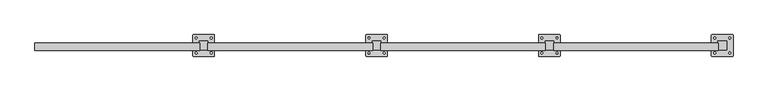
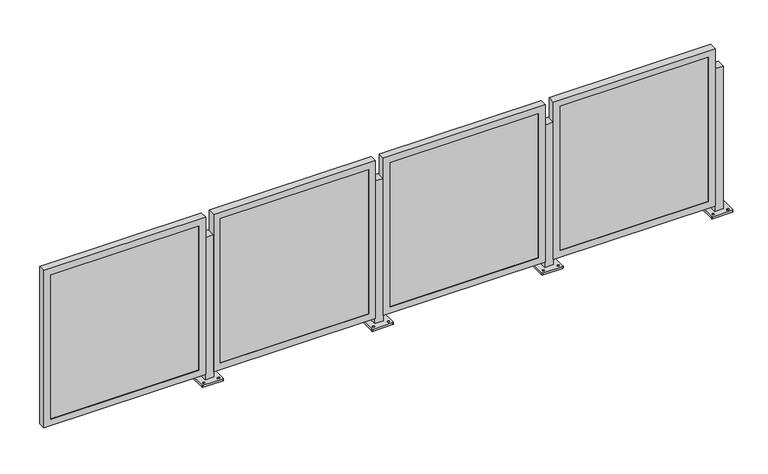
"""IFC4 building model written with IfcOpenShell, lengths in millimetres: railing geometry, Railing - Amico Architectural - Perforated Railing - Pisa."""

from ifc_helpers import new_model, si_unit, frame, origin, place, context, project, spatial, polyline, circle_curve, outline, extrude, faceted_brep, source, transform, mapped, element, save
from ifc_brep_helpers import plane_surface, cylinder_surface, revolved_surface, advanced_brep


def railing_c7cb529c(model_context):
    return source(origin(), model_context, "Body", "SolidModel", [
        advanced_brep(
        [(-18876.7094199, -12390.7148907, 914.4), (-18876.7094199, -12441.5148907, 914.4), (-18825.9094199, -12441.5148907, 914.4), (-18825.9094199, -12390.7148907, 914.4), (-18914.8094201, -12476.4398496, 0.0), (-18914.8094201, -12355.7899317, 0.0), (-18911.6343919, -12352.6149035, 0.0), (-18790.9844479, -12352.6149035, 0.0), (-18787.8094198, -12355.7899317, 0.0), (-18787.8094198, -12476.4398496, 0.0), (-18790.9844479, -12479.6148778, 0.0), (-18911.6343919, -12479.6148778, 0.0), (-18895.7594075, -12466.1211453, 0.0), (-18895.7594075, -12455.0086329, 0.0), (-18895.7594184, -12377.2211409, 0.0), (-18895.7594184, -12366.1086593, 0.0), (-18806.8594065, -12466.1211438, 0.0), (-18806.8594065, -12455.0086331, 0.0), (-18806.8594174, -12377.2211394, 0.0), (-18806.8594174, -12366.1086596, 0.0), (-18876.7094199, -12390.7148907, 12.7), (-18876.7094199, -12441.5148907, 12.7), (-18825.9094199, -12441.5148907, 12.7), (-18825.9094199, -12390.7148907, 12.7), (-18914.8094201, -12476.4398496, 12.7), (-18911.6343919, -12479.6148778, 12.7), (-18790.9844479, -12479.6148778, 12.7), (-18787.8094198, -12476.4398496, 12.7), (-18787.8094198, -12355.7899317, 12.7), (-18790.9844479, -12352.6149035, 12.7), (-18911.6343919, -12352.6149035, 12.7), (-18914.8094201, -12355.7899317, 12.7), (-18895.7594075, -12466.1211453, 12.7), (-18895.7594075, -12455.0086329, 12.7), (-18895.7594184, -12377.2211409, 12.7), (-18895.7594184, -12366.1086593, 12.7), (-18806.8594065, -12466.1211438, 12.7), (-18806.8594065, -12455.0086331, 12.7), (-18806.8594174, -12377.2211394, 12.7), (-18806.8594174, -12366.1086596, 12.7)],
        [
            (0, 1),
            (1, 2),
            (2, 3),
            (3, 0),
            (4, 5),
            (5, 6, circle_curve(frame((-18911.6343919, -12355.7899317, 0.0), z_axis=(0.0, 0.0, -1.0), x_axis=(0.0, 1.0, 0.0)), 3.1750282)),
            (6, 7),
            (7, 8, circle_curve(frame((-18790.9844479, -12355.7899317, 0.0), z_axis=(0.0, 0.0, -1.0), x_axis=(0.0, 1.0, 0.0)), 3.1750282)),
            (8, 9),
            (9, 10, circle_curve(frame((-18790.9844479, -12476.4398496, 0.0), z_axis=(0.0, 0.0, -1.0), x_axis=(0.0, 1.0, 0.0)), 3.1750282)),
            (10, 11),
            (11, 4, circle_curve(frame((-18911.6343919, -12476.4398496, 0.0), z_axis=(0.0, 0.0, -1.0), x_axis=(0.0, 1.0, 0.0)), 3.1750282)),
            (12, 13, circle_curve(frame((-18895.7594075, -12460.5648891, 0.0), z_axis=(0.0, 0.0, 1.0), x_axis=(0.0, 1.0, 0.0)), 5.5562562)),
            (13, 12, circle_curve(frame((-18895.7594075, -12460.5648891, 0.0), z_axis=(0.0, 0.0, 1.0), x_axis=(0.0, 1.0, 0.0)), 5.5562562)),
            (14, 15, circle_curve(frame((-18895.7594184, -12371.6649001, 0.0), z_axis=(0.0, 0.0, 1.0), x_axis=(0.0, 1.0, 0.0)), 5.5562408)),
            (15, 14, circle_curve(frame((-18895.7594184, -12371.6649001, 0.0), z_axis=(0.0, 0.0, 1.0), x_axis=(0.0, 1.0, 0.0)), 5.5562408)),
            (16, 17, circle_curve(frame((-18806.8594065, -12460.5648885, 0.0), z_axis=(0.0, 0.0, 1.0), x_axis=(0.0, 1.0, 0.0)), 5.5562553)),
            (17, 16, circle_curve(frame((-18806.8594065, -12460.5648885, 0.0), z_axis=(0.0, 0.0, 1.0), x_axis=(0.0, 1.0, 0.0)), 5.5562553)),
            (18, 19, circle_curve(frame((-18806.8594174, -12371.6648995, 0.0), z_axis=(0.0, 0.0, 1.0), x_axis=(0.0, 1.0, 0.0)), 5.5562399)),
            (19, 18, circle_curve(frame((-18806.8594174, -12371.6648995, 0.0), z_axis=(0.0, 0.0, 1.0), x_axis=(0.0, 1.0, 0.0)), 5.5562399)),
            (0, 20),
            (20, 21),
            (21, 1),
            (21, 22),
            (22, 2),
            (22, 23),
            (23, 3),
            (23, 20),
            (24, 25, circle_curve(frame((-18911.6343919, -12476.4398496, 12.7), z_axis=(0.0, 0.0, 1.0), x_axis=(0.0, 1.0, 0.0)), 3.1750282)),
            (25, 26),
            (26, 27, circle_curve(frame((-18790.9844479, -12476.4398496, 12.7), z_axis=(0.0, 0.0, 1.0), x_axis=(0.0, 1.0, 0.0)), 3.1750282)),
            (27, 28),
            (28, 29, circle_curve(frame((-18790.9844479, -12355.7899317, 12.7), z_axis=(0.0, 0.0, 1.0), x_axis=(0.0, 1.0, 0.0)), 3.1750282)),
            (29, 30),
            (30, 31, circle_curve(frame((-18911.6343919, -12355.7899317, 12.7), z_axis=(0.0, 0.0, 1.0), x_axis=(0.0, 1.0, 0.0)), 3.1750282)),
            (31, 24),
            (32, 33, circle_curve(frame((-18895.7594075, -12460.5648891, 12.7), z_axis=(0.0, 0.0, -1.0), x_axis=(0.0, 1.0, 0.0)), 5.5562562)),
            (33, 32, circle_curve(frame((-18895.7594075, -12460.5648891, 12.7), z_axis=(0.0, 0.0, -1.0), x_axis=(0.0, 1.0, 0.0)), 5.5562562)),
            (34, 35, circle_curve(frame((-18895.7594184, -12371.6649001, 12.7), z_axis=(0.0, 0.0, -1.0), x_axis=(0.0, 1.0, 0.0)), 5.5562408)),
            (35, 34, circle_curve(frame((-18895.7594184, -12371.6649001, 12.7), z_axis=(0.0, 0.0, -1.0), x_axis=(0.0, 1.0, 0.0)), 5.5562408)),
            (36, 37, circle_curve(frame((-18806.8594065, -12460.5648885, 12.7), z_axis=(0.0, 0.0, -1.0), x_axis=(0.0, 1.0, 0.0)), 5.5562553)),
            (37, 36, circle_curve(frame((-18806.8594065, -12460.5648885, 12.7), z_axis=(0.0, 0.0, -1.0), x_axis=(0.0, 1.0, 0.0)), 5.5562553)),
            (38, 39, circle_curve(frame((-18806.8594174, -12371.6648995, 12.7), z_axis=(0.0, 0.0, -1.0), x_axis=(0.0, 1.0, 0.0)), 5.5562399)),
            (39, 38, circle_curve(frame((-18806.8594174, -12371.6648995, 12.7), z_axis=(0.0, 0.0, -1.0), x_axis=(0.0, 1.0, 0.0)), 5.5562399)),
            (24, 4),
            (11, 25),
            (10, 26),
            (9, 27),
            (8, 28),
            (7, 29),
            (6, 30),
            (5, 31),
            (32, 12),
            (13, 33),
            (34, 14),
            (15, 35),
            (36, 16),
            (17, 37),
            (38, 18),
            (19, 39),
        ],
        [
            plane_surface(frame((-18876.7094199, -12441.5148907, 914.4), z_axis=(0.0, 0.0, 1.0), x_axis=(0.0, -1.0, 0.0))),
            plane_surface(frame((-18876.7094199, -12441.5148907, 0.0), z_axis=(0.0, 0.0, -1.0), x_axis=(0.0, 1.0, 0.0))),
            plane_surface(frame((-18876.7094199, -12390.7148907, 914.4), z_axis=(-1.0, 0.0, 0.0), x_axis=(0.0, 0.0, -1.0))),
            plane_surface(frame((-18876.7094199, -12441.5148907, 914.4), z_axis=(0.0, -1.0, 0.0), x_axis=(0.0, 0.0, -1.0))),
            plane_surface(frame((-18825.9094199, -12441.5148907, 914.4), z_axis=(1.0, 0.0, 0.0), x_axis=(0.0, 0.0, -1.0))),
            plane_surface(frame((-18825.9094199, -12390.7148907, 914.4), z_axis=(0.0, 1.0, 0.0), x_axis=(0.0, 0.0, -1.0))),
            plane_surface(frame((-18911.6343919, -12473.2648215, 12.7), z_axis=(0.0, 0.0, 1.0), x_axis=(-1.0, 0.0, 0.0))),
            cylinder_surface(frame((-18911.6343919, -12476.4398496, 0.0), z_axis=(0.0, 0.0, 1.0), x_axis=(0.0, 1.0, 0.0)), 3.1750282),
            plane_surface(frame((-18911.6343919, -12479.6148778, 12.7), z_axis=(1.1945386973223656e-12, -1.0, 0.0), x_axis=(0.0, 0.0, -1.0))),
            cylinder_surface(frame((-18790.9844479, -12476.4398496, 0.0), z_axis=(0.0, 0.0, 1.0), x_axis=(0.0, 1.0, 0.0)), 3.1750282),
            plane_surface(frame((-18787.8094198, -12476.4398496, 12.7), z_axis=(1.0, 0.0, 0.0), x_axis=(0.0, 0.0, -1.0))),
            cylinder_surface(frame((-18790.9844479, -12355.7899317, 0.0), z_axis=(0.0, 0.0, 1.0), x_axis=(0.0, 1.0, 0.0)), 3.1750282),
            plane_surface(frame((-18790.9844479, -12352.6149035, 12.7), z_axis=(-1.1946088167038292e-12, 1.0, 0.0), x_axis=(0.0, 0.0, -1.0))),
            cylinder_surface(frame((-18911.6343919, -12355.7899317, 0.0), z_axis=(0.0, 0.0, 1.0), x_axis=(0.0, 1.0, 0.0)), 3.1750282),
            plane_surface(frame((-18914.8094201, -12355.7899317, 12.7), z_axis=(-1.0, 0.0, 0.0), x_axis=(0.0, 0.0, -1.0))),
            revolved_surface(polyline([(-18895.7594075, -12455.0086329, 0.0), (-18895.7594075, -12455.0086329, 12.7)]), (-18895.7594075, -12460.5648891, 0.0), (0.0, 0.0, -1.0)),
            revolved_surface(polyline([(-18895.7594184, -12366.1086593, 0.0), (-18895.7594184, -12366.1086593, 12.7)]), (-18895.7594184, -12371.6649001, 0.0), (0.0, 0.0, -1.0)),
            revolved_surface(polyline([(-18806.8594065, -12455.0086332, 0.0), (-18806.8594065, -12455.0086332, 12.7)]), (-18806.8594065, -12460.5648885, 0.0), (0.0, 0.0, -1.0)),
            revolved_surface(polyline([(-18806.8594174, -12366.1086596, 0.0), (-18806.8594174, -12366.1086596, 12.7)]), (-18806.8594174, -12371.6648995, 0.0), (0.0, 0.0, -1.0)),
        ],
        [
            (0, [[1, 2, 3, 4]]),
            (1, [[5, 6, 7, 8, 9, 10, 11, 12], [13, 14], [15, 16], [17, 18], [19, 20]]),
            (2, [[-1, 21, 22, 23]]),
            (3, [[-2, -23, 24, 25]]),
            (4, [[-3, -25, 26, 27]]),
            (5, [[-4, -27, 28, -21]]),
            (6, [[29, 30, 31, 32, 33, 34, 35, 36], [-22, -28, -26, -24], [37, 38], [39, 40], [41, 42], [43, 44]]),
            (7, [[-29, 45, -12, 46]]),
            (8, [[-30, -46, -11, 47]]),
            (9, [[-31, -47, -10, 48]]),
            (10, [[-32, -48, -9, 49]]),
            (11, [[-33, -49, -8, 50]]),
            (12, [[-34, -50, -7, 51]]),
            (13, [[-35, -51, -6, 52]]),
            (14, [[-36, -52, -5, -45]]),
            (15, [[-37, 53, -14, 54]]),
            (15, [[-38, -54, -13, -53]]),
            (16, [[-39, 55, -16, 56]]),
            (16, [[-40, -56, -15, -55]]),
            (17, [[-41, 57, -18, 58]]),
            (17, [[-42, -58, -17, -57]]),
            (18, [[-43, 59, -20, 60]]),
            (18, [[-44, -60, -19, -59]]),
        ],
    ),
        faceted_brep([(-19843.1138733, -12444.2580907, 47.625), (-18874.7388733, -12444.2580907, 47.625), (-18874.7388733, -12444.2580907, 1044.575), (-19843.1138733, -12444.2580907, 1044.575), (-19801.8388733, -12444.2580907, 1003.3), (-18916.0138733, -12444.2580907, 1003.3), (-18916.0138733, -12444.2580907, 88.9), (-19801.8388733, -12444.2580907, 88.9), (-19801.8388733, -12441.5148907, 1003.3), (-19801.8388733, -12441.5148907, 88.9), (-19843.1138733, -12400.3847942, 1044.575), (-19843.1138733, -12400.3847942, 47.625), (-19839.9388733, -12400.3847942, 1041.4), (-19839.9388733, -12441.5148907, 1041.4), (-19839.9388733, -12441.5148907, 50.8), (-19839.9388733, -12400.3847942, 50.8), (-18916.0138733, -12441.5148907, 88.9), (-18874.7388733, -12400.3847942, 47.625), (-18877.9138733, -12441.5148907, 50.8), (-18877.9138733, -12400.3847942, 50.8), (-18916.0138733, -12441.5148907, 1003.3), (-18874.7388733, -12400.3847942, 1044.575), (-18877.9138733, -12441.5148907, 1041.4), (-18877.9138733, -12400.3847942, 1041.4)], [[[0, 1, 2, 3], [4, 5, 6, 7]], [[8, 4, 7, 9]], [[3, 10, 11, 0]], [[12, 13, 14, 15]], [[9, 7, 6, 16]], [[0, 11, 17, 1]], [[15, 14, 18, 19]], [[16, 6, 5, 20]], [[1, 17, 21, 2]], [[19, 18, 22, 23]], [[20, 5, 4, 8]], [[10, 21, 17, 11], [15, 19, 23, 12]], [[2, 21, 10, 3]], [[13, 22, 18, 14], [9, 16, 20, 8]], [[23, 22, 13, 12]]]),
        extrude(outline(polyline([(-19839.9388733, -12431.9898907), (-18877.9138733, -12431.9898907), (-18877.9138733, -12441.5148907), (-19839.9388733, -12441.5148907), (-19839.9388733, -12431.9898907)])), frame((0.0, 0.0, 50.8), z_axis=(0.0, 0.0, 1.0), x_axis=(1.0, 0.0, 0.0)), (0.0, 0.0, 1.0), 990.6),
        advanced_brep(
        [(-19892.7094199, -12390.7148907, 914.4), (-19892.7094199, -12441.5148907, 914.4), (-19841.9094199, -12441.5148907, 914.4), (-19841.9094199, -12390.7148907, 914.4), (-19930.8094201, -12476.4398496, 0.0), (-19930.8094201, -12355.7899317, 0.0), (-19927.6343919, -12352.6149035, 0.0), (-19806.9844479, -12352.6149035, 0.0), (-19803.8094198, -12355.7899317, 0.0), (-19803.8094198, -12476.4398496, 0.0), (-19806.9844479, -12479.6148778, 0.0), (-19927.6343919, -12479.6148778, 0.0), (-19911.7594075, -12466.1211453, 0.0), (-19911.7594075, -12455.0086329, 0.0), (-19911.7594184, -12377.2211409, 0.0), (-19911.7594184, -12366.1086593, 0.0), (-19822.8594065, -12466.1211438, 0.0), (-19822.8594065, -12455.0086331, 0.0), (-19822.8594174, -12377.2211394, 0.0), (-19822.8594174, -12366.1086596, 0.0), (-19892.7094199, -12390.7148907, 12.7), (-19892.7094199, -12441.5148907, 12.7), (-19841.9094199, -12441.5148907, 12.7), (-19841.9094199, -12390.7148907, 12.7), (-19930.8094201, -12476.4398496, 12.7), (-19927.6343919, -12479.6148778, 12.7), (-19806.9844479, -12479.6148778, 12.7), (-19803.8094198, -12476.4398496, 12.7), (-19803.8094198, -12355.7899317, 12.7), (-19806.9844479, -12352.6149035, 12.7), (-19927.6343919, -12352.6149035, 12.7), (-19930.8094201, -12355.7899317, 12.7), (-19911.7594075, -12466.1211453, 12.7), (-19911.7594075, -12455.0086329, 12.7), (-19911.7594184, -12377.2211409, 12.7), (-19911.7594184, -12366.1086593, 12.7), (-19822.8594065, -12466.1211438, 12.7), (-19822.8594065, -12455.0086331, 12.7), (-19822.8594174, -12377.2211394, 12.7), (-19822.8594174, -12366.1086596, 12.7)],
        [
            (0, 1),
            (1, 2),
            (2, 3),
            (3, 0),
            (4, 5),
            (5, 6, circle_curve(frame((-19927.6343919, -12355.7899317, 0.0), z_axis=(0.0, 0.0, -1.0), x_axis=(0.0, 1.0, 0.0)), 3.1750282)),
            (6, 7),
            (7, 8, circle_curve(frame((-19806.9844479, -12355.7899317, 0.0), z_axis=(0.0, 0.0, -1.0), x_axis=(0.0, 1.0, 0.0)), 3.1750282)),
            (8, 9),
            (9, 10, circle_curve(frame((-19806.9844479, -12476.4398496, 0.0), z_axis=(0.0, 0.0, -1.0), x_axis=(0.0, 1.0, 0.0)), 3.1750282)),
            (10, 11),
            (11, 4, circle_curve(frame((-19927.6343919, -12476.4398496, 0.0), z_axis=(0.0, 0.0, -1.0), x_axis=(0.0, 1.0, 0.0)), 3.1750282)),
            (12, 13, circle_curve(frame((-19911.7594075, -12460.5648891, 0.0), z_axis=(0.0, 0.0, 1.0), x_axis=(0.0, 1.0, 0.0)), 5.5562562)),
            (13, 12, circle_curve(frame((-19911.7594075, -12460.5648891, 0.0), z_axis=(0.0, 0.0, 1.0), x_axis=(0.0, 1.0, 0.0)), 5.5562562)),
            (14, 15, circle_curve(frame((-19911.7594184, -12371.6649001, 0.0), z_axis=(0.0, 0.0, 1.0), x_axis=(0.0, 1.0, 0.0)), 5.5562408)),
            (15, 14, circle_curve(frame((-19911.7594184, -12371.6649001, 0.0), z_axis=(0.0, 0.0, 1.0), x_axis=(0.0, 1.0, 0.0)), 5.5562408)),
            (16, 17, circle_curve(frame((-19822.8594065, -12460.5648885, 0.0), z_axis=(0.0, 0.0, 1.0), x_axis=(0.0, 1.0, 0.0)), 5.5562553)),
            (17, 16, circle_curve(frame((-19822.8594065, -12460.5648885, 0.0), z_axis=(0.0, 0.0, 1.0), x_axis=(0.0, 1.0, 0.0)), 5.5562553)),
            (18, 19, circle_curve(frame((-19822.8594174, -12371.6648995, 0.0), z_axis=(0.0, 0.0, 1.0), x_axis=(0.0, 1.0, 0.0)), 5.5562399)),
            (19, 18, circle_curve(frame((-19822.8594174, -12371.6648995, 0.0), z_axis=(0.0, 0.0, 1.0), x_axis=(0.0, 1.0, 0.0)), 5.5562399)),
            (0, 20),
            (20, 21),
            (21, 1),
            (21, 22),
            (22, 2),
            (22, 23),
            (23, 3),
            (23, 20),
            (24, 25, circle_curve(frame((-19927.6343919, -12476.4398496, 12.7), z_axis=(0.0, 0.0, 1.0), x_axis=(0.0, 1.0, 0.0)), 3.1750282)),
            (25, 26),
            (26, 27, circle_curve(frame((-19806.9844479, -12476.4398496, 12.7), z_axis=(0.0, 0.0, 1.0), x_axis=(0.0, 1.0, 0.0)), 3.1750282)),
            (27, 28),
            (28, 29, circle_curve(frame((-19806.9844479, -12355.7899317, 12.7), z_axis=(0.0, 0.0, 1.0), x_axis=(0.0, 1.0, 0.0)), 3.1750282)),
            (29, 30),
            (30, 31, circle_curve(frame((-19927.6343919, -12355.7899317, 12.7), z_axis=(0.0, 0.0, 1.0), x_axis=(0.0, 1.0, 0.0)), 3.1750282)),
            (31, 24),
            (32, 33, circle_curve(frame((-19911.7594075, -12460.5648891, 12.7), z_axis=(0.0, 0.0, -1.0), x_axis=(0.0, 1.0, 0.0)), 5.5562562)),
            (33, 32, circle_curve(frame((-19911.7594075, -12460.5648891, 12.7), z_axis=(0.0, 0.0, -1.0), x_axis=(0.0, 1.0, 0.0)), 5.5562562)),
            (34, 35, circle_curve(frame((-19911.7594184, -12371.6649001, 12.7), z_axis=(0.0, 0.0, -1.0), x_axis=(0.0, 1.0, 0.0)), 5.5562408)),
            (35, 34, circle_curve(frame((-19911.7594184, -12371.6649001, 12.7), z_axis=(0.0, 0.0, -1.0), x_axis=(0.0, 1.0, 0.0)), 5.5562408)),
            (36, 37, circle_curve(frame((-19822.8594065, -12460.5648885, 12.7), z_axis=(0.0, 0.0, -1.0), x_axis=(0.0, 1.0, 0.0)), 5.5562553)),
            (37, 36, circle_curve(frame((-19822.8594065, -12460.5648885, 12.7), z_axis=(0.0, 0.0, -1.0), x_axis=(0.0, 1.0, 0.0)), 5.5562553)),
            (38, 39, circle_curve(frame((-19822.8594174, -12371.6648995, 12.7), z_axis=(0.0, 0.0, -1.0), x_axis=(0.0, 1.0, 0.0)), 5.5562399)),
            (39, 38, circle_curve(frame((-19822.8594174, -12371.6648995, 12.7), z_axis=(0.0, 0.0, -1.0), x_axis=(0.0, 1.0, 0.0)), 5.5562399)),
            (24, 4),
            (11, 25),
            (10, 26),
            (9, 27),
            (8, 28),
            (7, 29),
            (6, 30),
            (5, 31),
            (32, 12),
            (13, 33),
            (34, 14),
            (15, 35),
            (36, 16),
            (17, 37),
            (38, 18),
            (19, 39),
        ],
        [
            plane_surface(frame((-19892.7094199, -12441.5148907, 914.4), z_axis=(0.0, 0.0, 1.0), x_axis=(0.0, -1.0, 0.0))),
            plane_surface(frame((-19892.7094199, -12441.5148907, 0.0), z_axis=(0.0, 0.0, -1.0), x_axis=(0.0, 1.0, 0.0))),
            plane_surface(frame((-19892.7094199, -12390.7148907, 914.4), z_axis=(-1.0, 0.0, 0.0), x_axis=(0.0, 0.0, -1.0))),
            plane_surface(frame((-19892.7094199, -12441.5148907, 914.4), z_axis=(0.0, -1.0, 0.0), x_axis=(0.0, 0.0, -1.0))),
            plane_surface(frame((-19841.9094199, -12441.5148907, 914.4), z_axis=(1.0, 0.0, 0.0), x_axis=(0.0, 0.0, -1.0))),
            plane_surface(frame((-19841.9094199, -12390.7148907, 914.4), z_axis=(0.0, 1.0, 0.0), x_axis=(0.0, 0.0, -1.0))),
            plane_surface(frame((-19927.6343919, -12473.2648215, 12.7), z_axis=(0.0, 0.0, 1.0), x_axis=(-1.0, 0.0, 0.0))),
            cylinder_surface(frame((-19927.6343919, -12476.4398496, 0.0), z_axis=(0.0, 0.0, 1.0), x_axis=(0.0, 1.0, 0.0)), 3.1750282),
            plane_surface(frame((-19927.6343919, -12479.6148778, 12.7), z_axis=(1.1945386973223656e-12, -1.0, 0.0), x_axis=(0.0, 0.0, -1.0))),
            cylinder_surface(frame((-19806.9844479, -12476.4398496, 0.0), z_axis=(0.0, 0.0, 1.0), x_axis=(0.0, 1.0, 0.0)), 3.1750282),
            plane_surface(frame((-19803.8094198, -12476.4398496, 12.7), z_axis=(1.0, 0.0, 0.0), x_axis=(0.0, 0.0, -1.0))),
            cylinder_surface(frame((-19806.9844479, -12355.7899317, 0.0), z_axis=(0.0, 0.0, 1.0), x_axis=(0.0, 1.0, 0.0)), 3.1750282),
            plane_surface(frame((-19806.9844479, -12352.6149035, 12.7), z_axis=(-1.1946088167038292e-12, 1.0, 0.0), x_axis=(0.0, 0.0, -1.0))),
            cylinder_surface(frame((-19927.6343919, -12355.7899317, 0.0), z_axis=(0.0, 0.0, 1.0), x_axis=(0.0, 1.0, 0.0)), 3.1750282),
            plane_surface(frame((-19930.8094201, -12355.7899317, 12.7), z_axis=(-1.0, 0.0, 0.0), x_axis=(0.0, 0.0, -1.0))),
            revolved_surface(polyline([(-19911.7594075, -12455.0086329, 0.0), (-19911.7594075, -12455.0086329, 12.7)]), (-19911.7594075, -12460.5648891, 0.0), (0.0, 0.0, -1.0)),
            revolved_surface(polyline([(-19911.7594184, -12366.1086593, 0.0), (-19911.7594184, -12366.1086593, 12.7)]), (-19911.7594184, -12371.6649001, 0.0), (0.0, 0.0, -1.0)),
            revolved_surface(polyline([(-19822.8594065, -12455.0086332, 0.0), (-19822.8594065, -12455.0086332, 12.7)]), (-19822.8594065, -12460.5648885, 0.0), (0.0, 0.0, -1.0)),
            revolved_surface(polyline([(-19822.8594174, -12366.1086596, 0.0), (-19822.8594174, -12366.1086596, 12.7)]), (-19822.8594174, -12371.6648995, 0.0), (0.0, 0.0, -1.0)),
        ],
        [
            (0, [[1, 2, 3, 4]]),
            (1, [[5, 6, 7, 8, 9, 10, 11, 12], [13, 14], [15, 16], [17, 18], [19, 20]]),
            (2, [[-1, 21, 22, 23]]),
            (3, [[-2, -23, 24, 25]]),
            (4, [[-3, -25, 26, 27]]),
            (5, [[-4, -27, 28, -21]]),
            (6, [[29, 30, 31, 32, 33, 34, 35, 36], [-22, -28, -26, -24], [37, 38], [39, 40], [41, 42], [43, 44]]),
            (7, [[-29, 45, -12, 46]]),
            (8, [[-30, -46, -11, 47]]),
            (9, [[-31, -47, -10, 48]]),
            (10, [[-32, -48, -9, 49]]),
            (11, [[-33, -49, -8, 50]]),
            (12, [[-34, -50, -7, 51]]),
            (13, [[-35, -51, -6, 52]]),
            (14, [[-36, -52, -5, -45]]),
            (15, [[-37, 53, -14, 54]]),
            (15, [[-38, -54, -13, -53]]),
            (16, [[-39, 55, -16, 56]]),
            (16, [[-40, -56, -15, -55]]),
            (17, [[-41, 57, -18, 58]]),
            (17, [[-42, -58, -17, -57]]),
            (18, [[-43, 59, -20, 60]]),
            (18, [[-44, -60, -19, -59]]),
        ],
    ),
        faceted_brep([(-20859.1138733, -12444.2580907, 47.625), (-19890.7388733, -12444.2580907, 47.625), (-19890.7388733, -12444.2580907, 1044.575), (-20859.1138733, -12444.2580907, 1044.575), (-20817.8388733, -12444.2580907, 1003.3), (-19932.0138733, -12444.2580907, 1003.3), (-19932.0138733, -12444.2580907, 88.9), (-20817.8388733, -12444.2580907, 88.9), (-20817.8388733, -12441.5148907, 1003.3), (-20817.8388733, -12441.5148907, 88.9), (-20859.1138733, -12400.3847942, 1044.575), (-20859.1138733, -12400.3847942, 47.625), (-20855.9388733, -12400.3847942, 1041.4), (-20855.9388733, -12441.5148907, 1041.4), (-20855.9388733, -12441.5148907, 50.8), (-20855.9388733, -12400.3847942, 50.8), (-19932.0138733, -12441.5148907, 88.9), (-19890.7388733, -12400.3847942, 47.625), (-19893.9138733, -12441.5148907, 50.8), (-19893.9138733, -12400.3847942, 50.8), (-19932.0138733, -12441.5148907, 1003.3), (-19890.7388733, -12400.3847942, 1044.575), (-19893.9138733, -12441.5148907, 1041.4), (-19893.9138733, -12400.3847942, 1041.4)], [[[0, 1, 2, 3], [4, 5, 6, 7]], [[8, 4, 7, 9]], [[3, 10, 11, 0]], [[12, 13, 14, 15]], [[9, 7, 6, 16]], [[0, 11, 17, 1]], [[15, 14, 18, 19]], [[16, 6, 5, 20]], [[1, 17, 21, 2]], [[19, 18, 22, 23]], [[20, 5, 4, 8]], [[10, 21, 17, 11], [15, 19, 23, 12]], [[2, 21, 10, 3]], [[13, 22, 18, 14], [9, 16, 20, 8]], [[23, 22, 13, 12]]]),
        extrude(outline(polyline([(-20855.9388733, -12431.9898907), (-19893.9138733, -12431.9898907), (-19893.9138733, -12441.5148907), (-20855.9388733, -12441.5148907), (-20855.9388733, -12431.9898907)])), frame((0.0, 0.0, 50.8), z_axis=(0.0, 0.0, 1.0), x_axis=(1.0, 0.0, 0.0)), (0.0, 0.0, 1.0), 990.6),
        advanced_brep(
        [(-20908.7094199, -12390.7148907, 914.4), (-20908.7094199, -12441.5148907, 914.4), (-20857.9094199, -12441.5148907, 914.4), (-20857.9094199, -12390.7148907, 914.4), (-20946.8094201, -12476.4398496, 0.0), (-20946.8094201, -12355.7899317, 0.0), (-20943.6343919, -12352.6149035, 0.0), (-20822.9844479, -12352.6149035, 0.0), (-20819.8094198, -12355.7899317, 0.0), (-20819.8094198, -12476.4398496, 0.0), (-20822.9844479, -12479.6148778, 0.0), (-20943.6343919, -12479.6148778, 0.0), (-20927.7594075, -12466.1211453, 0.0), (-20927.7594075, -12455.0086329, 0.0), (-20927.7594184, -12377.2211409, 0.0), (-20927.7594184, -12366.1086593, 0.0), (-20838.8594065, -12466.1211438, 0.0), (-20838.8594065, -12455.0086331, 0.0), (-20838.8594174, -12377.2211394, 0.0), (-20838.8594174, -12366.1086596, 0.0), (-20908.7094199, -12390.7148907, 12.7), (-20908.7094199, -12441.5148907, 12.7), (-20857.9094199, -12441.5148907, 12.7), (-20857.9094199, -12390.7148907, 12.7), (-20946.8094201, -12476.4398496, 12.7), (-20943.6343919, -12479.6148778, 12.7), (-20822.9844479, -12479.6148778, 12.7), (-20819.8094198, -12476.4398496, 12.7), (-20819.8094198, -12355.7899317, 12.7), (-20822.9844479, -12352.6149035, 12.7), (-20943.6343919, -12352.6149035, 12.7), (-20946.8094201, -12355.7899317, 12.7), (-20927.7594075, -12466.1211453, 12.7), (-20927.7594075, -12455.0086329, 12.7), (-20927.7594184, -12377.2211409, 12.7), (-20927.7594184, -12366.1086593, 12.7), (-20838.8594065, -12466.1211438, 12.7), (-20838.8594065, -12455.0086331, 12.7), (-20838.8594174, -12377.2211394, 12.7), (-20838.8594174, -12366.1086596, 12.7)],
        [
            (0, 1),
            (1, 2),
            (2, 3),
            (3, 0),
            (4, 5),
            (5, 6, circle_curve(frame((-20943.6343919, -12355.7899317, 0.0), z_axis=(0.0, 0.0, -1.0), x_axis=(0.0, 1.0, 0.0)), 3.1750282)),
            (6, 7),
            (7, 8, circle_curve(frame((-20822.9844479, -12355.7899317, 0.0), z_axis=(0.0, 0.0, -1.0), x_axis=(0.0, 1.0, 0.0)), 3.1750282)),
            (8, 9),
            (9, 10, circle_curve(frame((-20822.9844479, -12476.4398496, 0.0), z_axis=(0.0, 0.0, -1.0), x_axis=(0.0, 1.0, 0.0)), 3.1750282)),
            (10, 11),
            (11, 4, circle_curve(frame((-20943.6343919, -12476.4398496, 0.0), z_axis=(0.0, 0.0, -1.0), x_axis=(0.0, 1.0, 0.0)), 3.1750282)),
            (12, 13, circle_curve(frame((-20927.7594075, -12460.5648891, 0.0), z_axis=(0.0, 0.0, 1.0), x_axis=(0.0, 1.0, 0.0)), 5.5562562)),
            (13, 12, circle_curve(frame((-20927.7594075, -12460.5648891, 0.0), z_axis=(0.0, 0.0, 1.0), x_axis=(0.0, 1.0, 0.0)), 5.5562562)),
            (14, 15, circle_curve(frame((-20927.7594184, -12371.6649001, 0.0), z_axis=(0.0, 0.0, 1.0), x_axis=(0.0, 1.0, 0.0)), 5.5562408)),
            (15, 14, circle_curve(frame((-20927.7594184, -12371.6649001, 0.0), z_axis=(0.0, 0.0, 1.0), x_axis=(0.0, 1.0, 0.0)), 5.5562408)),
            (16, 17, circle_curve(frame((-20838.8594065, -12460.5648885, 0.0), z_axis=(0.0, 0.0, 1.0), x_axis=(0.0, 1.0, 0.0)), 5.5562553)),
            (17, 16, circle_curve(frame((-20838.8594065, -12460.5648885, 0.0), z_axis=(0.0, 0.0, 1.0), x_axis=(0.0, 1.0, 0.0)), 5.5562553)),
            (18, 19, circle_curve(frame((-20838.8594174, -12371.6648995, 0.0), z_axis=(0.0, 0.0, 1.0), x_axis=(0.0, 1.0, 0.0)), 5.5562399)),
            (19, 18, circle_curve(frame((-20838.8594174, -12371.6648995, 0.0), z_axis=(0.0, 0.0, 1.0), x_axis=(0.0, 1.0, 0.0)), 5.5562399)),
            (0, 20),
            (20, 21),
            (21, 1),
            (21, 22),
            (22, 2),
            (22, 23),
            (23, 3),
            (23, 20),
            (24, 25, circle_curve(frame((-20943.6343919, -12476.4398496, 12.7), z_axis=(0.0, 0.0, 1.0), x_axis=(0.0, 1.0, 0.0)), 3.1750282)),
            (25, 26),
            (26, 27, circle_curve(frame((-20822.9844479, -12476.4398496, 12.7), z_axis=(0.0, 0.0, 1.0), x_axis=(0.0, 1.0, 0.0)), 3.1750282)),
            (27, 28),
            (28, 29, circle_curve(frame((-20822.9844479, -12355.7899317, 12.7), z_axis=(0.0, 0.0, 1.0), x_axis=(0.0, 1.0, 0.0)), 3.1750282)),
            (29, 30),
            (30, 31, circle_curve(frame((-20943.6343919, -12355.7899317, 12.7), z_axis=(0.0, 0.0, 1.0), x_axis=(0.0, 1.0, 0.0)), 3.1750282)),
            (31, 24),
            (32, 33, circle_curve(frame((-20927.7594075, -12460.5648891, 12.7), z_axis=(0.0, 0.0, -1.0), x_axis=(0.0, 1.0, 0.0)), 5.5562562)),
            (33, 32, circle_curve(frame((-20927.7594075, -12460.5648891, 12.7), z_axis=(0.0, 0.0, -1.0), x_axis=(0.0, 1.0, 0.0)), 5.5562562)),
            (34, 35, circle_curve(frame((-20927.7594184, -12371.6649001, 12.7), z_axis=(0.0, 0.0, -1.0), x_axis=(0.0, 1.0, 0.0)), 5.5562408)),
            (35, 34, circle_curve(frame((-20927.7594184, -12371.6649001, 12.7), z_axis=(0.0, 0.0, -1.0), x_axis=(0.0, 1.0, 0.0)), 5.5562408)),
            (36, 37, circle_curve(frame((-20838.8594065, -12460.5648885, 12.7), z_axis=(0.0, 0.0, -1.0), x_axis=(0.0, 1.0, 0.0)), 5.5562553)),
            (37, 36, circle_curve(frame((-20838.8594065, -12460.5648885, 12.7), z_axis=(0.0, 0.0, -1.0), x_axis=(0.0, 1.0, 0.0)), 5.5562553)),
            (38, 39, circle_curve(frame((-20838.8594174, -12371.6648995, 12.7), z_axis=(0.0, 0.0, -1.0), x_axis=(0.0, 1.0, 0.0)), 5.5562399)),
            (39, 38, circle_curve(frame((-20838.8594174, -12371.6648995, 12.7), z_axis=(0.0, 0.0, -1.0), x_axis=(0.0, 1.0, 0.0)), 5.5562399)),
            (24, 4),
            (11, 25),
            (10, 26),
            (9, 27),
            (8, 28),
            (7, 29),
            (6, 30),
            (5, 31),
            (32, 12),
            (13, 33),
            (34, 14),
            (15, 35),
            (36, 16),
            (17, 37),
            (38, 18),
            (19, 39),
        ],
        [
            plane_surface(frame((-20908.7094199, -12441.5148907, 914.4), z_axis=(0.0, 0.0, 1.0), x_axis=(0.0, -1.0, 0.0))),
            plane_surface(frame((-20908.7094199, -12441.5148907, 0.0), z_axis=(0.0, 0.0, -1.0), x_axis=(0.0, 1.0, 0.0))),
            plane_surface(frame((-20908.7094199, -12390.7148907, 914.4), z_axis=(-1.0, 0.0, 0.0), x_axis=(0.0, 0.0, -1.0))),
            plane_surface(frame((-20908.7094199, -12441.5148907, 914.4), z_axis=(0.0, -1.0, 0.0), x_axis=(0.0, 0.0, -1.0))),
            plane_surface(frame((-20857.9094199, -12441.5148907, 914.4), z_axis=(1.0, 0.0, 0.0), x_axis=(0.0, 0.0, -1.0))),
            plane_surface(frame((-20857.9094199, -12390.7148907, 914.4), z_axis=(0.0, 1.0, 0.0), x_axis=(0.0, 0.0, -1.0))),
            plane_surface(frame((-20943.6343919, -12473.2648215, 12.7), z_axis=(0.0, 0.0, 1.0), x_axis=(-1.0, 0.0, 0.0))),
            cylinder_surface(frame((-20943.6343919, -12476.4398496, 0.0), z_axis=(0.0, 0.0, 1.0), x_axis=(0.0, 1.0, 0.0)), 3.1750282),
            plane_surface(frame((-20943.6343919, -12479.6148778, 12.7), z_axis=(1.1945386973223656e-12, -1.0, 0.0), x_axis=(0.0, 0.0, -1.0))),
            cylinder_surface(frame((-20822.9844479, -12476.4398496, 0.0), z_axis=(0.0, 0.0, 1.0), x_axis=(0.0, 1.0, 0.0)), 3.1750282),
            plane_surface(frame((-20819.8094198, -12476.4398496, 12.7), z_axis=(1.0, 0.0, 0.0), x_axis=(0.0, 0.0, -1.0))),
            cylinder_surface(frame((-20822.9844479, -12355.7899317, 0.0), z_axis=(0.0, 0.0, 1.0), x_axis=(0.0, 1.0, 0.0)), 3.1750282),
            plane_surface(frame((-20822.9844479, -12352.6149035, 12.7), z_axis=(-1.1946088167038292e-12, 1.0, 0.0), x_axis=(0.0, 0.0, -1.0))),
            cylinder_surface(frame((-20943.6343919, -12355.7899317, 0.0), z_axis=(0.0, 0.0, 1.0), x_axis=(0.0, 1.0, 0.0)), 3.1750282),
            plane_surface(frame((-20946.8094201, -12355.7899317, 12.7), z_axis=(-1.0, 0.0, 0.0), x_axis=(0.0, 0.0, -1.0))),
            revolved_surface(polyline([(-20927.7594075, -12455.0086329, 0.0), (-20927.7594075, -12455.0086329, 12.7)]), (-20927.7594075, -12460.5648891, 0.0), (0.0, 0.0, -1.0)),
            revolved_surface(polyline([(-20927.7594184, -12366.1086593, 0.0), (-20927.7594184, -12366.1086593, 12.7)]), (-20927.7594184, -12371.6649001, 0.0), (0.0, 0.0, -1.0)),
            revolved_surface(polyline([(-20838.8594065, -12455.0086332, 0.0), (-20838.8594065, -12455.0086332, 12.7)]), (-20838.8594065, -12460.5648885, 0.0), (0.0, 0.0, -1.0)),
            revolved_surface(polyline([(-20838.8594174, -12366.1086596, 0.0), (-20838.8594174, -12366.1086596, 12.7)]), (-20838.8594174, -12371.6648995, 0.0), (0.0, 0.0, -1.0)),
        ],
        [
            (0, [[1, 2, 3, 4]]),
            (1, [[5, 6, 7, 8, 9, 10, 11, 12], [13, 14], [15, 16], [17, 18], [19, 20]]),
            (2, [[-1, 21, 22, 23]]),
            (3, [[-2, -23, 24, 25]]),
            (4, [[-3, -25, 26, 27]]),
            (5, [[-4, -27, 28, -21]]),
            (6, [[29, 30, 31, 32, 33, 34, 35, 36], [-22, -28, -26, -24], [37, 38], [39, 40], [41, 42], [43, 44]]),
            (7, [[-29, 45, -12, 46]]),
            (8, [[-30, -46, -11, 47]]),
            (9, [[-31, -47, -10, 48]]),
            (10, [[-32, -48, -9, 49]]),
            (11, [[-33, -49, -8, 50]]),
            (12, [[-34, -50, -7, 51]]),
            (13, [[-35, -51, -6, 52]]),
            (14, [[-36, -52, -5, -45]]),
            (15, [[-37, 53, -14, 54]]),
            (15, [[-38, -54, -13, -53]]),
            (16, [[-39, 55, -16, 56]]),
            (16, [[-40, -56, -15, -55]]),
            (17, [[-41, 57, -18, 58]]),
            (17, [[-42, -58, -17, -57]]),
            (18, [[-43, 59, -20, 60]]),
            (18, [[-44, -60, -19, -59]]),
        ],
    ),
        faceted_brep([(-21875.1138733, -12444.2580907, 47.625), (-20906.7388733, -12444.2580907, 47.625), (-20906.7388733, -12444.2580907, 1044.575), (-21875.1138733, -12444.2580907, 1044.575), (-21833.8388733, -12444.2580907, 1003.3), (-20948.0138733, -12444.2580907, 1003.3), (-20948.0138733, -12444.2580907, 88.9), (-21833.8388733, -12444.2580907, 88.9), (-21833.8388733, -12441.5148907, 1003.3), (-21833.8388733, -12441.5148907, 88.9), (-21875.1138733, -12400.3847942, 1044.575), (-21875.1138733, -12400.3847942, 47.625), (-21871.9388733, -12400.3847942, 1041.4), (-21871.9388733, -12441.5148907, 1041.4), (-21871.9388733, -12441.5148907, 50.8), (-21871.9388733, -12400.3847942, 50.8), (-20948.0138733, -12441.5148907, 88.9), (-20906.7388733, -12400.3847942, 47.625), (-20909.9138733, -12441.5148907, 50.8), (-20909.9138733, -12400.3847942, 50.8), (-20948.0138733, -12441.5148907, 1003.3), (-20906.7388733, -12400.3847942, 1044.575), (-20909.9138733, -12441.5148907, 1041.4), (-20909.9138733, -12400.3847942, 1041.4)], [[[0, 1, 2, 3], [4, 5, 6, 7]], [[8, 4, 7, 9]], [[3, 10, 11, 0]], [[12, 13, 14, 15]], [[9, 7, 6, 16]], [[0, 11, 17, 1]], [[15, 14, 18, 19]], [[16, 6, 5, 20]], [[1, 17, 21, 2]], [[19, 18, 22, 23]], [[20, 5, 4, 8]], [[10, 21, 17, 11], [15, 19, 23, 12]], [[2, 21, 10, 3]], [[13, 22, 18, 14], [9, 16, 20, 8]], [[23, 22, 13, 12]]]),
        extrude(outline(polyline([(-21871.9388733, -12431.9898907), (-20909.9138733, -12431.9898907), (-20909.9138733, -12441.5148907), (-21871.9388733, -12441.5148907), (-21871.9388733, -12431.9898907)])), frame((0.0, 0.0, 50.8), z_axis=(0.0, 0.0, 1.0), x_axis=(1.0, 0.0, 0.0)), (0.0, 0.0, 1.0), 990.6),
        advanced_brep(
        [(-21924.7094199, -12390.7148907, 914.4), (-21924.7094199, -12441.5148907, 914.4), (-21873.9094199, -12441.5148907, 914.4), (-21873.9094199, -12390.7148907, 914.4), (-21962.8094201, -12476.4398496, 0.0), (-21962.8094201, -12355.7899317, 0.0), (-21959.6343919, -12352.6149035, 0.0), (-21838.9844479, -12352.6149035, 0.0), (-21835.8094198, -12355.7899317, 0.0), (-21835.8094198, -12476.4398496, 0.0), (-21838.9844479, -12479.6148778, 0.0), (-21959.6343919, -12479.6148778, 0.0), (-21943.7594075, -12466.1211453, 0.0), (-21943.7594075, -12455.0086329, 0.0), (-21943.7594184, -12377.2211409, 0.0), (-21943.7594184, -12366.1086593, 0.0), (-21854.8594065, -12466.1211438, 0.0), (-21854.8594065, -12455.0086331, 0.0), (-21854.8594174, -12377.2211394, 0.0), (-21854.8594174, -12366.1086596, 0.0), (-21924.7094199, -12390.7148907, 12.7), (-21924.7094199, -12441.5148907, 12.7), (-21873.9094199, -12441.5148907, 12.7), (-21873.9094199, -12390.7148907, 12.7), (-21962.8094201, -12476.4398496, 12.7), (-21959.6343919, -12479.6148778, 12.7), (-21838.9844479, -12479.6148778, 12.7), (-21835.8094198, -12476.4398496, 12.7), (-21835.8094198, -12355.7899317, 12.7), (-21838.9844479, -12352.6149035, 12.7), (-21959.6343919, -12352.6149035, 12.7), (-21962.8094201, -12355.7899317, 12.7), (-21943.7594075, -12466.1211453, 12.7), (-21943.7594075, -12455.0086329, 12.7), (-21943.7594184, -12377.2211409, 12.7), (-21943.7594184, -12366.1086593, 12.7), (-21854.8594065, -12466.1211438, 12.7), (-21854.8594065, -12455.0086331, 12.7), (-21854.8594174, -12377.2211394, 12.7), (-21854.8594174, -12366.1086596, 12.7)],
        [
            (0, 1),
            (1, 2),
            (2, 3),
            (3, 0),
            (4, 5),
            (5, 6, circle_curve(frame((-21959.6343919, -12355.7899317, 0.0), z_axis=(0.0, 0.0, -1.0), x_axis=(0.0, 1.0, 0.0)), 3.1750282)),
            (6, 7),
            (7, 8, circle_curve(frame((-21838.9844479, -12355.7899317, 0.0), z_axis=(0.0, 0.0, -1.0), x_axis=(0.0, 1.0, 0.0)), 3.1750282)),
            (8, 9),
            (9, 10, circle_curve(frame((-21838.9844479, -12476.4398496, 0.0), z_axis=(0.0, 0.0, -1.0), x_axis=(0.0, 1.0, 0.0)), 3.1750282)),
            (10, 11),
            (11, 4, circle_curve(frame((-21959.6343919, -12476.4398496, 0.0), z_axis=(0.0, 0.0, -1.0), x_axis=(0.0, 1.0, 0.0)), 3.1750282)),
            (12, 13, circle_curve(frame((-21943.7594075, -12460.5648891, 0.0), z_axis=(0.0, 0.0, 1.0), x_axis=(0.0, 1.0, 0.0)), 5.5562562)),
            (13, 12, circle_curve(frame((-21943.7594075, -12460.5648891, 0.0), z_axis=(0.0, 0.0, 1.0), x_axis=(0.0, 1.0, 0.0)), 5.5562562)),
            (14, 15, circle_curve(frame((-21943.7594184, -12371.6649001, 0.0), z_axis=(0.0, 0.0, 1.0), x_axis=(0.0, 1.0, 0.0)), 5.5562408)),
            (15, 14, circle_curve(frame((-21943.7594184, -12371.6649001, 0.0), z_axis=(0.0, 0.0, 1.0), x_axis=(0.0, 1.0, 0.0)), 5.5562408)),
            (16, 17, circle_curve(frame((-21854.8594065, -12460.5648885, 0.0), z_axis=(0.0, 0.0, 1.0), x_axis=(0.0, 1.0, 0.0)), 5.5562553)),
            (17, 16, circle_curve(frame((-21854.8594065, -12460.5648885, 0.0), z_axis=(0.0, 0.0, 1.0), x_axis=(0.0, 1.0, 0.0)), 5.5562553)),
            (18, 19, circle_curve(frame((-21854.8594174, -12371.6648995, 0.0), z_axis=(0.0, 0.0, 1.0), x_axis=(0.0, 1.0, 0.0)), 5.5562399)),
            (19, 18, circle_curve(frame((-21854.8594174, -12371.6648995, 0.0), z_axis=(0.0, 0.0, 1.0), x_axis=(0.0, 1.0, 0.0)), 5.5562399)),
            (0, 20),
            (20, 21),
            (21, 1),
            (21, 22),
            (22, 2),
            (22, 23),
            (23, 3),
            (23, 20),
            (24, 25, circle_curve(frame((-21959.6343919, -12476.4398496, 12.7), z_axis=(0.0, 0.0, 1.0), x_axis=(0.0, 1.0, 0.0)), 3.1750282)),
            (25, 26),
            (26, 27, circle_curve(frame((-21838.9844479, -12476.4398496, 12.7), z_axis=(0.0, 0.0, 1.0), x_axis=(0.0, 1.0, 0.0)), 3.1750282)),
            (27, 28),
            (28, 29, circle_curve(frame((-21838.9844479, -12355.7899317, 12.7), z_axis=(0.0, 0.0, 1.0), x_axis=(0.0, 1.0, 0.0)), 3.1750282)),
            (29, 30),
            (30, 31, circle_curve(frame((-21959.6343919, -12355.7899317, 12.7), z_axis=(0.0, 0.0, 1.0), x_axis=(0.0, 1.0, 0.0)), 3.1750282)),
            (31, 24),
            (32, 33, circle_curve(frame((-21943.7594075, -12460.5648891, 12.7), z_axis=(0.0, 0.0, -1.0), x_axis=(0.0, 1.0, 0.0)), 5.5562562)),
            (33, 32, circle_curve(frame((-21943.7594075, -12460.5648891, 12.7), z_axis=(0.0, 0.0, -1.0), x_axis=(0.0, 1.0, 0.0)), 5.5562562)),
            (34, 35, circle_curve(frame((-21943.7594184, -12371.6649001, 12.7), z_axis=(0.0, 0.0, -1.0), x_axis=(0.0, 1.0, 0.0)), 5.5562408)),
            (35, 34, circle_curve(frame((-21943.7594184, -12371.6649001, 12.7), z_axis=(0.0, 0.0, -1.0), x_axis=(0.0, 1.0, 0.0)), 5.5562408)),
            (36, 37, circle_curve(frame((-21854.8594065, -12460.5648885, 12.7), z_axis=(0.0, 0.0, -1.0), x_axis=(0.0, 1.0, 0.0)), 5.5562553)),
            (37, 36, circle_curve(frame((-21854.8594065, -12460.5648885, 12.7), z_axis=(0.0, 0.0, -1.0), x_axis=(0.0, 1.0, 0.0)), 5.5562553)),
            (38, 39, circle_curve(frame((-21854.8594174, -12371.6648995, 12.7), z_axis=(0.0, 0.0, -1.0), x_axis=(0.0, 1.0, 0.0)), 5.5562399)),
            (39, 38, circle_curve(frame((-21854.8594174, -12371.6648995, 12.7), z_axis=(0.0, 0.0, -1.0), x_axis=(0.0, 1.0, 0.0)), 5.5562399)),
            (24, 4),
            (11, 25),
            (10, 26),
            (9, 27),
            (8, 28),
            (7, 29),
            (6, 30),
            (5, 31),
            (32, 12),
            (13, 33),
            (34, 14),
            (15, 35),
            (36, 16),
            (17, 37),
            (38, 18),
            (19, 39),
        ],
        [
            plane_surface(frame((-21924.7094199, -12441.5148907, 914.4), z_axis=(0.0, 0.0, 1.0), x_axis=(0.0, -1.0, 0.0))),
            plane_surface(frame((-21924.7094199, -12441.5148907, 0.0), z_axis=(0.0, 0.0, -1.0), x_axis=(0.0, 1.0, 0.0))),
            plane_surface(frame((-21924.7094199, -12390.7148907, 914.4), z_axis=(-1.0, 0.0, 0.0), x_axis=(0.0, 0.0, -1.0))),
            plane_surface(frame((-21924.7094199, -12441.5148907, 914.4), z_axis=(0.0, -1.0, 0.0), x_axis=(0.0, 0.0, -1.0))),
            plane_surface(frame((-21873.9094199, -12441.5148907, 914.4), z_axis=(1.0, 0.0, 0.0), x_axis=(0.0, 0.0, -1.0))),
            plane_surface(frame((-21873.9094199, -12390.7148907, 914.4), z_axis=(0.0, 1.0, 0.0), x_axis=(0.0, 0.0, -1.0))),
            plane_surface(frame((-21959.6343919, -12473.2648215, 12.7), z_axis=(0.0, 0.0, 1.0), x_axis=(-1.0, 0.0, 0.0))),
            cylinder_surface(frame((-21959.6343919, -12476.4398496, 0.0), z_axis=(0.0, 0.0, 1.0), x_axis=(0.0, 1.0, 0.0)), 3.1750282),
            plane_surface(frame((-21959.6343919, -12479.6148778, 12.7), z_axis=(1.1945386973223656e-12, -1.0, 0.0), x_axis=(0.0, 0.0, -1.0))),
            cylinder_surface(frame((-21838.9844479, -12476.4398496, 0.0), z_axis=(0.0, 0.0, 1.0), x_axis=(0.0, 1.0, 0.0)), 3.1750282),
            plane_surface(frame((-21835.8094198, -12476.4398496, 12.7), z_axis=(1.0, 0.0, 0.0), x_axis=(0.0, 0.0, -1.0))),
            cylinder_surface(frame((-21838.9844479, -12355.7899317, 0.0), z_axis=(0.0, 0.0, 1.0), x_axis=(0.0, 1.0, 0.0)), 3.1750282),
            plane_surface(frame((-21838.9844479, -12352.6149035, 12.7), z_axis=(-1.1946088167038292e-12, 1.0, 0.0), x_axis=(0.0, 0.0, -1.0))),
            cylinder_surface(frame((-21959.6343919, -12355.7899317, 0.0), z_axis=(0.0, 0.0, 1.0), x_axis=(0.0, 1.0, 0.0)), 3.1750282),
            plane_surface(frame((-21962.8094201, -12355.7899317, 12.7), z_axis=(-1.0, 0.0, 0.0), x_axis=(0.0, 0.0, -1.0))),
            revolved_surface(polyline([(-21943.7594075, -12455.0086329, 0.0), (-21943.7594075, -12455.0086329, 12.7)]), (-21943.7594075, -12460.5648891, 0.0), (0.0, 0.0, -1.0)),
            revolved_surface(polyline([(-21943.7594184, -12366.1086593, 0.0), (-21943.7594184, -12366.1086593, 12.7)]), (-21943.7594184, -12371.6649001, 0.0), (0.0, 0.0, -1.0)),
            revolved_surface(polyline([(-21854.8594065, -12455.0086332, 0.0), (-21854.8594065, -12455.0086332, 12.7)]), (-21854.8594065, -12460.5648885, 0.0), (0.0, 0.0, -1.0)),
            revolved_surface(polyline([(-21854.8594174, -12366.1086596, 0.0), (-21854.8594174, -12366.1086596, 12.7)]), (-21854.8594174, -12371.6648995, 0.0), (0.0, 0.0, -1.0)),
        ],
        [
            (0, [[1, 2, 3, 4]]),
            (1, [[5, 6, 7, 8, 9, 10, 11, 12], [13, 14], [15, 16], [17, 18], [19, 20]]),
            (2, [[-1, 21, 22, 23]]),
            (3, [[-2, -23, 24, 25]]),
            (4, [[-3, -25, 26, 27]]),
            (5, [[-4, -27, 28, -21]]),
            (6, [[29, 30, 31, 32, 33, 34, 35, 36], [-22, -28, -26, -24], [37, 38], [39, 40], [41, 42], [43, 44]]),
            (7, [[-29, 45, -12, 46]]),
            (8, [[-30, -46, -11, 47]]),
            (9, [[-31, -47, -10, 48]]),
            (10, [[-32, -48, -9, 49]]),
            (11, [[-33, -49, -8, 50]]),
            (12, [[-34, -50, -7, 51]]),
            (13, [[-35, -51, -6, 52]]),
            (14, [[-36, -52, -5, -45]]),
            (15, [[-37, 53, -14, 54]]),
            (15, [[-38, -54, -13, -53]]),
            (16, [[-39, 55, -16, 56]]),
            (16, [[-40, -56, -15, -55]]),
            (17, [[-41, 57, -18, 58]]),
            (17, [[-42, -58, -17, -57]]),
            (18, [[-43, 59, -20, 60]]),
            (18, [[-44, -60, -19, -59]]),
        ],
    ),
        faceted_brep([(-22891.1138733, -12444.2580907, 47.625), (-21922.7388733, -12444.2580907, 47.625), (-21922.7388733, -12444.2580907, 1044.575), (-22891.1138733, -12444.2580907, 1044.575), (-22849.8388733, -12444.2580907, 1003.3), (-21964.0138733, -12444.2580907, 1003.3), (-21964.0138733, -12444.2580907, 88.9), (-22849.8388733, -12444.2580907, 88.9), (-22849.8388733, -12441.5148907, 1003.3), (-22849.8388733, -12441.5148907, 88.9), (-22891.1138733, -12400.3847942, 1044.575), (-22891.1138733, -12400.3847942, 47.625), (-22887.9388733, -12400.3847942, 1041.4), (-22887.9388733, -12441.5148907, 1041.4), (-22887.9388733, -12441.5148907, 50.8), (-22887.9388733, -12400.3847942, 50.8), (-21964.0138733, -12441.5148907, 88.9), (-21922.7388733, -12400.3847942, 47.625), (-21925.9138733, -12441.5148907, 50.8), (-21925.9138733, -12400.3847942, 50.8), (-21964.0138733, -12441.5148907, 1003.3), (-21922.7388733, -12400.3847942, 1044.575), (-21925.9138733, -12441.5148907, 1041.4), (-21925.9138733, -12400.3847942, 1041.4)], [[[0, 1, 2, 3], [4, 5, 6, 7]], [[8, 4, 7, 9]], [[3, 10, 11, 0]], [[12, 13, 14, 15]], [[9, 7, 6, 16]], [[0, 11, 17, 1]], [[15, 14, 18, 19]], [[16, 6, 5, 20]], [[1, 17, 21, 2]], [[19, 18, 22, 23]], [[20, 5, 4, 8]], [[10, 21, 17, 11], [15, 19, 23, 12]], [[2, 21, 10, 3]], [[13, 22, 18, 14], [9, 16, 20, 8]], [[23, 22, 13, 12]]]),
        extrude(outline(polyline([(-22887.9388733, -12431.9898907), (-21925.9138733, -12431.9898907), (-21925.9138733, -12441.5148907), (-22887.9388733, -12441.5148907), (-22887.9388733, -12431.9898907)])), frame((0.0, 0.0, 50.8), z_axis=(0.0, 0.0, 1.0), x_axis=(1.0, 0.0, 0.0)), (0.0, 0.0, 1.0), 990.6),
    ])


if __name__ == "__main__":
    model = new_model("IFC4")
    model_context = context("Model", 3, world=origin())
    ifc_project = project(units=[si_unit("LENGTHUNIT", "METRE", prefix="MILLI")], contexts=[model_context])
    site = spatial("IfcSite", under=ifc_project)
    building = spatial("IfcBuilding", under=site)
    placement = place(None, origin())
    railing_shape = railing_c7cb529c(model_context)
    element("IfcRailing", 1, ObjectType="Railing - Amico Architectural - Perforated Railing - Pisa", at=placement, inside=building, context=model_context, shape_type="MappedRepresentation", body=[
        mapped(railing_shape, transform((0.0, 0.0, 0.0), x_axis=(1.0, 0.0, 0.0), y_axis=(0.0, 1.0, 0.0), z_axis=(0.0, 0.0, 1.0))),
    ])
    save(model, "model.ifc")
